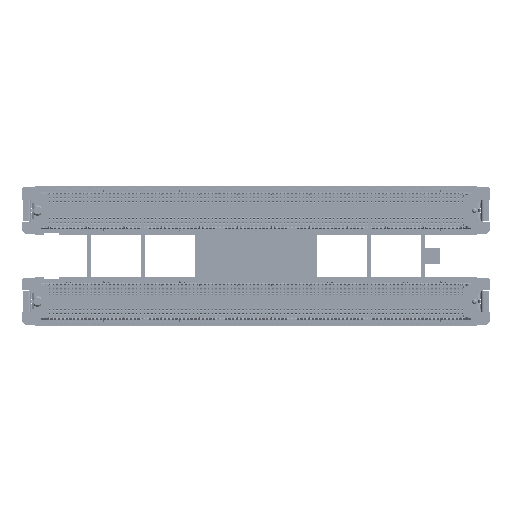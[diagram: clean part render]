
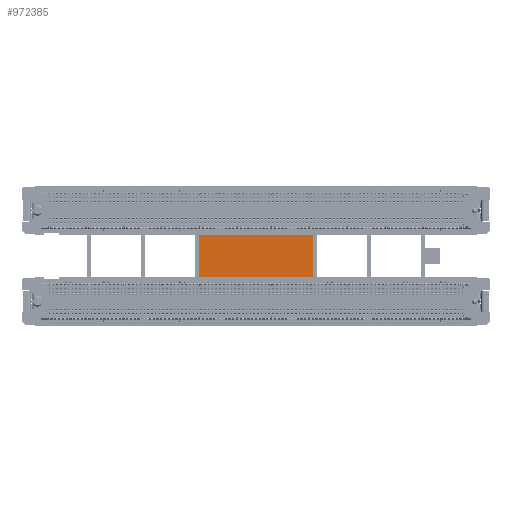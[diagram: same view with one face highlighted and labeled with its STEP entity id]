
A CAD part, front view. The second image highlights one B-rep face of the part: STEP entity #972385.
In plain terms, the highlighted planar face has unit normal (0, -1, 0).
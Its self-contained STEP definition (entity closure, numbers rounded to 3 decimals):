
#880 = DIRECTION ( 'NONE',  ( -1., 0., 0. ) ) ;
#8856 = ORIENTED_EDGE ( 'NONE', *, *, #535048, .T. ) ;
#10043 = CARTESIAN_POINT ( 'NONE',  ( -7.5, 4.85, -8.8 ) ) ;
#34047 = DIRECTION ( 'NONE',  ( 0., 0., 1. ) ) ;
#83697 = DIRECTION ( 'NONE',  ( 0., 0., 1. ) ) ;
#87674 = ORIENTED_EDGE ( 'NONE', *, *, #856228, .F. ) ;
#137814 = EDGE_CURVE ( 'NONE', #250755, #1082356, #363852, .T. ) ;
#155920 = VECTOR ( 'NONE', #34047, 1000. ) ;
#166043 = PLANE ( 'NONE',  #614738 ) ;
#170322 = VECTOR ( 'NONE', #880, 1000. ) ;
#182639 = FACE_OUTER_BOUND ( 'NONE', #729746, .T. ) ;
#250755 = VERTEX_POINT ( 'NONE', #619875 ) ;
#267441 = VERTEX_POINT ( 'NONE', #10043 ) ;
#363852 = LINE ( 'NONE', #947391, #564829 ) ;
#365297 = VERTEX_POINT ( 'NONE', #886210 ) ;
#446866 = EDGE_CURVE ( 'NONE', #365297, #267441, #1054445, .T. ) ;
#496195 = CARTESIAN_POINT ( 'NONE',  ( 7.5, 4.85, -6. ) ) ;
#535048 = EDGE_CURVE ( 'NONE', #365297, #250755, #1026378, .T. ) ;
#542327 = ORIENTED_EDGE ( 'NONE', *, *, #446866, .F. ) ;
#564829 = VECTOR ( 'NONE', #857520, 1000. ) ;
#596308 = DIRECTION ( 'NONE',  ( 0., 1., 0. ) ) ;
#614738 = AXIS2_PLACEMENT_3D ( 'NONE', #1109356, #596308, #83697 ) ;
#619875 = CARTESIAN_POINT ( 'NONE',  ( 7.5, 4.85, -3.2 ) ) ;
#685616 = CARTESIAN_POINT ( 'NONE',  ( 22.3, 4.85, -8.8 ) ) ;
#710755 = CARTESIAN_POINT ( 'NONE',  ( -7.5, 4.85, -3.2 ) ) ;
#729746 = EDGE_LOOP ( 'NONE', ( #542327, #8856, #992465, #87674 ) ) ;
#798403 = VECTOR ( 'NONE', #1095427, 1000. ) ;
#839191 = LINE ( 'NONE', #1059806, #155920 ) ;
#856228 = EDGE_CURVE ( 'NONE', #267441, #1082356, #839191, .T. ) ;
#857520 = DIRECTION ( 'NONE',  ( -1., 0., 0. ) ) ;
#886210 = CARTESIAN_POINT ( 'NONE',  ( 7.5, 4.85, -8.8 ) ) ;
#947391 = CARTESIAN_POINT ( 'NONE',  ( 22.3, 4.85, -3.2 ) ) ;
#972385 = ADVANCED_FACE ( 'NONE', ( #182639 ), #166043, .F. ) ;
#992465 = ORIENTED_EDGE ( 'NONE', *, *, #137814, .T. ) ;
#1026378 = LINE ( 'NONE', #496195, #798403 ) ;
#1054445 = LINE ( 'NONE', #685616, #170322 ) ;
#1059806 = CARTESIAN_POINT ( 'NONE',  ( -7.5, 4.85, -6. ) ) ;
#1082356 = VERTEX_POINT ( 'NONE', #710755 ) ;
#1095427 = DIRECTION ( 'NONE',  ( 0., 0., 1. ) ) ;
#1109356 = CARTESIAN_POINT ( 'NONE',  ( 22.3, 4.85, -6. ) ) ;
